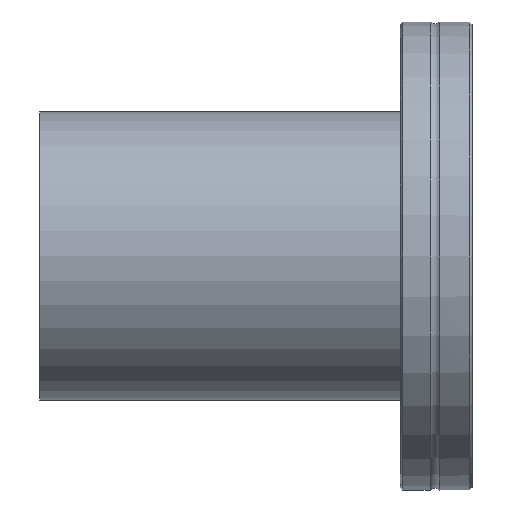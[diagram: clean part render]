
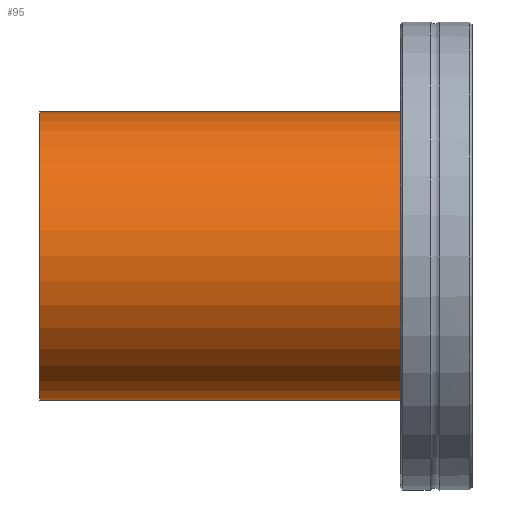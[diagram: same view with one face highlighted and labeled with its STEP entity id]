
A CAD part, front view. The second image highlights one B-rep face of the part: STEP entity #95.
In plain terms, the highlighted cylindrical face has radius 35 mm (diameter 70 mm), a full revolution.
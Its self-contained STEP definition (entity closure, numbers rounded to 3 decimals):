
#68=CARTESIAN_POINT('',(-105.0,0.0,0.0));
#69=DIRECTION('',(1.0,0.0,0.0));
#70=DIRECTION('',(0.0,0.0,-1.0));
#71=AXIS2_PLACEMENT_3D('',#68,#69,#70);
#72=CYLINDRICAL_SURFACE('',#71,35.0);
#73=CARTESIAN_POINT('',(-9.5,0.,35.0));
#74=VERTEX_POINT('',#73);
#75=CARTESIAN_POINT('',(-9.5,0.0,0.0));
#76=DIRECTION('',(1.0,0.0,0.0));
#77=DIRECTION('',(0.0,0.0,-1.0));
#78=AXIS2_PLACEMENT_3D('',#75,#76,#77);
#79=CIRCLE('',#78,35.0);
#80=EDGE_CURVE('',#74,#74,#79,.T.);
#81=ORIENTED_EDGE('',*,*,#80,.F.);
#82=EDGE_LOOP('',(#81));
#83=FACE_OUTER_BOUND('',#82,.T.);
#84=CARTESIAN_POINT('',(-105.0,0.,35.0));
#85=VERTEX_POINT('',#84);
#86=CARTESIAN_POINT('',(-105.0,0.0,0.0));
#87=DIRECTION('',(-1.0,0.0,0.0));
#88=DIRECTION('',(0.0,0.0,-1.0));
#89=AXIS2_PLACEMENT_3D('',#86,#87,#88);
#90=CIRCLE('',#89,35.0);
#91=EDGE_CURVE('',#85,#85,#90,.T.);
#92=ORIENTED_EDGE('',*,*,#91,.F.);
#93=EDGE_LOOP('',(#92));
#94=FACE_BOUND('',#93,.T.);
#95=ADVANCED_FACE('',(#83,#94),#72,.T.);
